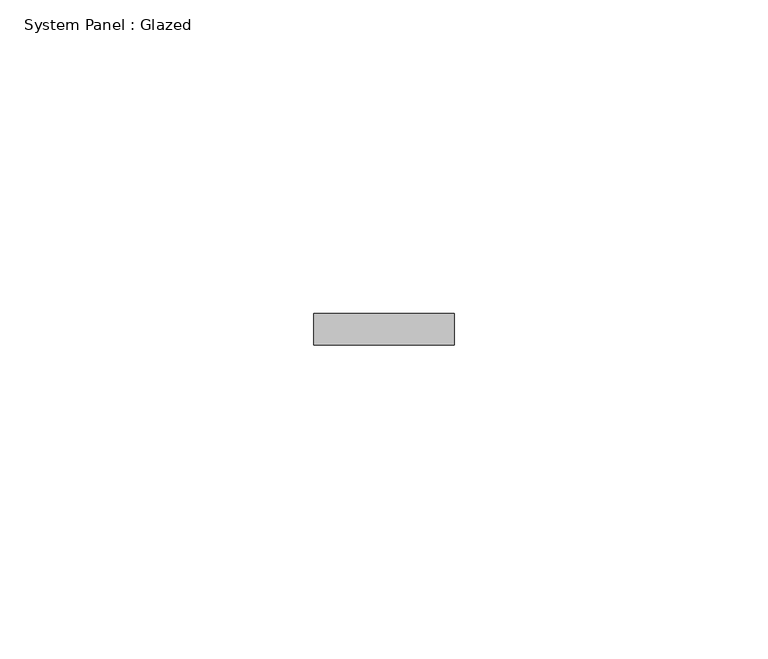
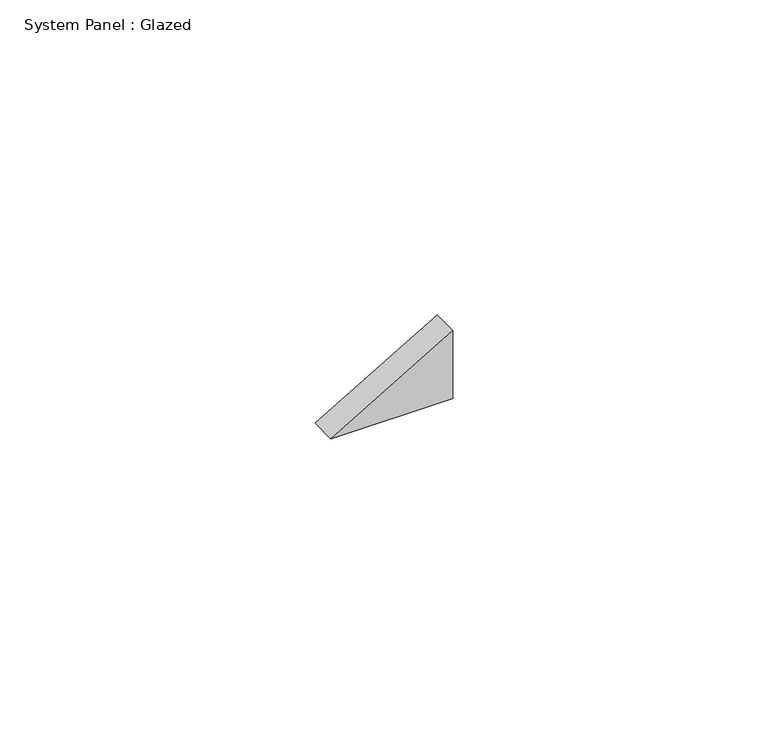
"""IFC4 building model written with IfcOpenShell, lengths in millimetres: plate geometry, System Panel : Glazed."""

from ifc_helpers import new_model, si_unit, frame, origin, place, context, project, spatial, polyline, outline, extrude, source, transform, mapped, element, save


def system_panel_glazed_5eb767f0(model_context):
    return source(origin(), model_context, "Body", "SweptSolid", [
        extrude(outline(polyline([(0.0, -11.165195), (0.0, 11.165195), (13.1454291, 11.165195), (0.0, -11.165195)])), frame((0.0, -2.5, 0.0), z_axis=(0.0, 1.0, 0.0), x_axis=(0.0, 0.0, 1.0)), (0.0, 0.0, 1.0), 5.0),
    ])


if __name__ == "__main__":
    model = new_model("IFC4")
    model_context = context("Model", 3, world=origin())
    ifc_project = project(units=[si_unit("LENGTHUNIT", "METRE", prefix="MILLI")], contexts=[model_context])
    site = spatial("IfcSite", under=ifc_project)
    building = spatial("IfcBuilding", under=site)
    placement = place(None, origin())
    system_panel_glazed_shape = system_panel_glazed_5eb767f0(model_context)
    element("IfcPlate", 1, ObjectType="System Panel : Glazed", at=placement, inside=building, context=model_context, shape_type="MappedRepresentation", body=[
        mapped(system_panel_glazed_shape, transform((0.0, 0.0, 0.0), x_axis=(1.0, 0.0, 0.0), y_axis=(0.0, 1.0, 0.0), z_axis=(0.0, 0.0, 1.0))),
    ])
    save(model, "model.ifc")
